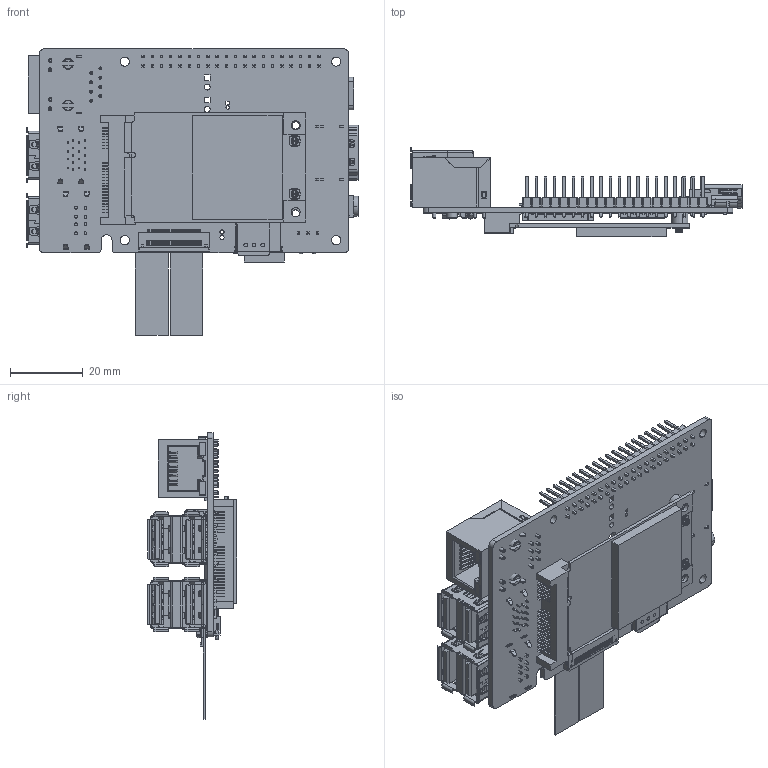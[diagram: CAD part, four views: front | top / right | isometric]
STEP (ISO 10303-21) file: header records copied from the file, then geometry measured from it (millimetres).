
FILE_DESCRIPTION (( 'STEP AP214' ), '1' );
FILE_NAME ('LubanCat1 PCB 3D恅璃-20231009.STEP', '2023-10-09T01:41:18', ( '' ), ( '' ), 'SwSTEP 2.0', 'SolidWorks 2021', '' );
FILE_SCHEMA (( 'AUTOMOTIVE_DESIGN' ));
Length unit declared in the file: millimetre
Products named in the file (5): 齬盄聆彸 20230529; LubanCat1 PCB 3D恅璃-20231009; USB2.0邧脯橙晚 錨璃; LubanCat 1 PCB 錨璃; AXE630124
Assembly tree (6 placements, depth 2):
  LubanCat1 PCB 3D恅璃-20231009
    LubanCat 1 PCB 錨璃
    AXE630124  x2
    齬盄聆彸 20230529  x2
    USB2.0邧脯橙晚 錨璃
Bounding box: 91.1 x 24.59 x 78.52 mm (x, y, z)
Volume: 22564.1 mm3; surface area: 33891.8 mm2
Topology: 94 solids, 96 shells, 8926 faces, 24145 edges, 15538 vertices
Faces by surface type: plane 6805, cylinder 1570, bspline 447, cone 75, sphere 15, torus 14
Entity records: 340711 total; most frequent: CARTESIAN_POINT 66088, ORIENTED_EDGE 43214, DIRECTION 36168, EDGE_CURVE 21608, VECTOR 17398, LINE 17398, VERTEX_POINT 13955, AXIS2_PLACEMENT_3D 9385
